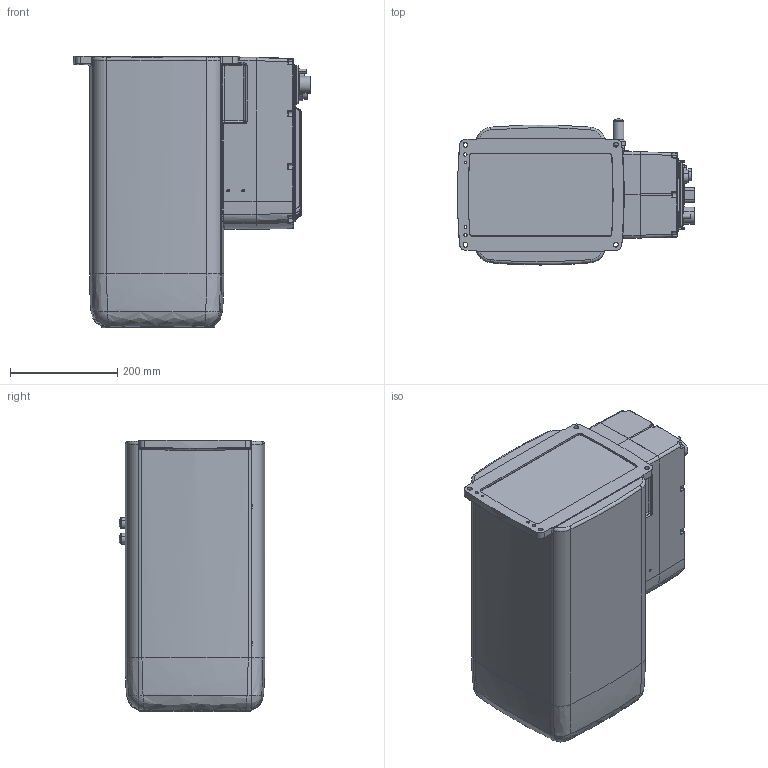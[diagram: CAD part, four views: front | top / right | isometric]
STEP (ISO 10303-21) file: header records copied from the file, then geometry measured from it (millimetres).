
FILE_DESCRIPTION(('CATIA V5 STEP Exchange'),'2;1');
FILE_NAME('Z:\Data1\ROBOT\CATIA06\products\EZ\EZ03-4525-02\Assy\Lightmodel\STEP\EZ03V-4525_base.stp','2016-03-04T04:23:27+00:00',('none'),('none'),'Version 5-6 Release 2012','CATIA V5 STEP AP203','none');
FILE_SCHEMA(('CONFIG_CONTROL_DESIGN'));
Length unit declared in the file: millimetre
Products named in the file (1): EZ03V-4525_base
Bounding box: 441.4 x 271.34 x 505 mm (x, y, z)
Volume: 37609305 mm3; surface area: 1404470.9 mm2
Topology: 6 solids, 6 shells, 1319 faces, 3156 edges, 1881 vertices
Faces by surface type: bspline 499, plane 325, cylinder 309, revolution 184, extrusion 2
Entity records: 98722 total; most frequent: CARTESIAN_POINT 73425, ORIENTED_EDGE 6272, EDGE_CURVE 3136, DIRECTION 2946, VERTEX_POINT 1881, B_SPLINE_CURVE_WITH_KNOTS 1802, EDGE_LOOP 1387, ADVANCED_FACE 1319
